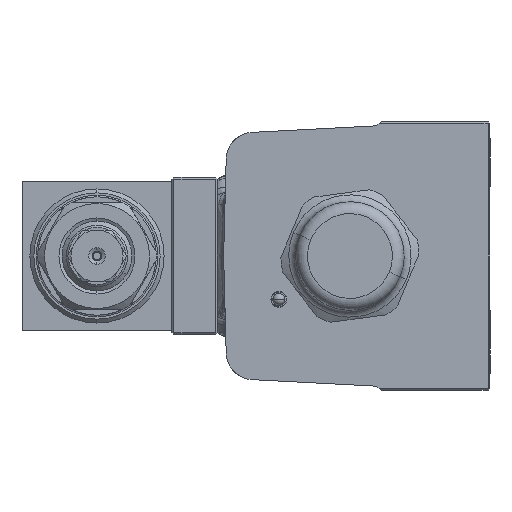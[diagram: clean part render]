
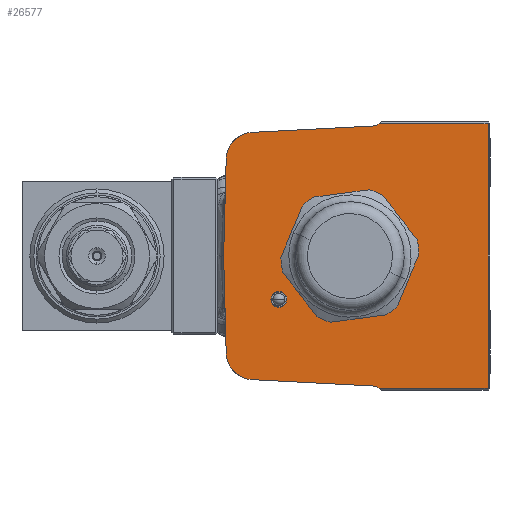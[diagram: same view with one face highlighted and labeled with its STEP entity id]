
A CAD part, left-side view. The second image highlights one B-rep face of the part: STEP entity #26577.
In plain terms, the highlighted planar face has unit normal (-1, 0, 0).
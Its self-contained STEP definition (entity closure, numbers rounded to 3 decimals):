
#138 = CIRCLE ( 'NONE', #11371, 2. ) ;
#163 = CARTESIAN_POINT ( 'NONE',  ( -46.6, 1.706, 32.544 ) ) ;
#1074 = EDGE_CURVE ( 'NONE', #29311, #34501, #23485, .T. ) ;
#2360 = AXIS2_PLACEMENT_3D ( 'NONE', #38598, #11333, #43174 ) ;
#2668 = EDGE_CURVE ( 'NONE', #52649, #45985, #33105, .T. ) ;
#2807 = CARTESIAN_POINT ( 'NONE',  ( -46.6, 31.358, 24.53 ) ) ;
#2915 = EDGE_CURVE ( 'NONE', #29311, #26737, #18118, .T. ) ;
#3044 = CIRCLE ( 'NONE', #25920, 3. ) ;
#3106 = EDGE_CURVE ( 'NONE', #57707, #38130, #3044, .T. ) ;
#3719 = CARTESIAN_POINT ( 'NONE',  ( -46.6, 24.36, 24.347 ) ) ;
#3825 = AXIS2_PLACEMENT_3D ( 'NONE', #39353, #12080, #43908 ) ;
#4926 = AXIS2_PLACEMENT_3D ( 'NONE', #47462, #20184, #52026 ) ;
#5215 = CARTESIAN_POINT ( 'NONE',  ( -46.6, 32., 0. ) ) ;
#5485 = LINE ( 'NONE', #22608, #17622 ) ;
#5718 = AXIS2_PLACEMENT_3D ( 'NONE', #6161, #38040, #10758 ) ;
#6161 = CARTESIAN_POINT ( 'NONE',  ( -46.6, 18., -11. ) ) ;
#6977 = EDGE_CURVE ( 'NONE', #45985, #17584, #10444, .T. ) ;
#8332 = DIRECTION ( 'NONE',  ( 0., 0., 1. ) ) ;
#8645 = ORIENTED_EDGE ( 'NONE', *, *, #31837, .T. ) ;
#9050 = VECTOR ( 'NONE', #45019, 1000. ) ;
#9288 = VERTEX_POINT ( 'NONE', #57681 ) ;
#9448 = AXIS2_PLACEMENT_3D ( 'NONE', #38737, #11487, #43325 ) ;
#9472 = LINE ( 'NONE', #14200, #56465 ) ;
#9480 = FACE_BOUND ( 'NONE', #20515, .T. ) ;
#9816 = DIRECTION ( 'NONE',  ( 0., -1., 0. ) ) ;
#10444 = LINE ( 'NONE', #58997, #9050 ) ;
#10758 = DIRECTION ( 'NONE',  ( 0., 0., 1. ) ) ;
#10902 = CARTESIAN_POINT ( 'NONE',  ( -46.6, 18., -9. ) ) ;
#11333 = DIRECTION ( 'NONE',  ( -1., 0., 0. ) ) ;
#11371 = AXIS2_PLACEMENT_3D ( 'NONE', #45724, #18479, #50301 ) ;
#11487 = DIRECTION ( 'NONE',  ( -1., 0., 0. ) ) ;
#11909 = DIRECTION ( 'NONE',  ( 1., 0., 0. ) ) ;
#12080 = DIRECTION ( 'NONE',  ( -1., 0., 0. ) ) ;
#12977 = ORIENTED_EDGE ( 'NONE', *, *, #2668, .T. ) ;
#13569 = ORIENTED_EDGE ( 'NONE', *, *, #2915, .F. ) ;
#14200 = CARTESIAN_POINT ( 'NONE',  ( -46.6, -35.5, -33.5 ) ) ;
#14300 = EDGE_CURVE ( 'NONE', #17584, #26737, #16394, .T. ) ;
#15621 = CIRCLE ( 'NONE', #2360, 16. ) ;
#16134 = DIRECTION ( 'NONE',  ( 0., 0., 1. ) ) ;
#16307 = EDGE_LOOP ( 'NONE', ( #35828, #8645, #12977, #23942, #52058, #13569, #40821, #51358, #24720, #57301, #56211 ) ) ;
#16394 = CIRCLE ( 'NONE', #4926, 3. ) ;
#16484 = EDGE_CURVE ( 'NONE', #42496, #37502, #15621, .T. ) ;
#17584 = VERTEX_POINT ( 'NONE', #55656 ) ;
#17622 = VECTOR ( 'NONE', #49856, 1000. ) ;
#17728 = VERTEX_POINT ( 'NONE', #48431 ) ;
#18118 = LINE ( 'NONE', #163, #40910 ) ;
#18479 = DIRECTION ( 'NONE',  ( -1., 0., 0. ) ) ;
#19986 = CARTESIAN_POINT ( 'NONE',  ( -46.6, 16., 0. ) ) ;
#20019 = CIRCLE ( 'NONE', #5718, 2. ) ;
#20184 = DIRECTION ( 'NONE',  ( 1., 0., 0. ) ) ;
#20515 = EDGE_LOOP ( 'NONE', ( #40628, #52342 ) ) ;
#21631 = EDGE_CURVE ( 'NONE', #29489, #9288, #138, .T. ) ;
#22496 = CARTESIAN_POINT ( 'NONE',  ( -46.6, 24.36, -24.347 ) ) ;
#22608 = CARTESIAN_POINT ( 'NONE',  ( -46.6, 1.706, -32.544 ) ) ;
#22876 = VERTEX_POINT ( 'NONE', #26048 ) ;
#23485 = CIRCLE ( 'NONE', #44019, 7. ) ;
#23942 = ORIENTED_EDGE ( 'NONE', *, *, #6977, .T. ) ;
#24160 = CARTESIAN_POINT ( 'NONE',  ( -46.6, -7.444, -33.5 ) ) ;
#24509 = ORIENTED_EDGE ( 'NONE', *, *, #21631, .F. ) ;
#24720 = ORIENTED_EDGE ( 'NONE', *, *, #27865, .T. ) ;
#25558 = LINE ( 'NONE', #47861, #49724 ) ;
#25920 = AXIS2_PLACEMENT_3D ( 'NONE', #39180, #11909, #43732 ) ;
#26048 = CARTESIAN_POINT ( 'NONE',  ( -46.6, 31.358, -24.53 ) ) ;
#26209 = CARTESIAN_POINT ( 'NONE',  ( -46.6, -5.85, 32.94 ) ) ;
#26577 = ADVANCED_FACE ( 'NONE', ( #45800, #33696, #9480 ), #43139, .T. ) ;
#26737 = VERTEX_POINT ( 'NONE', #26209 ) ;
#27099 = DIRECTION ( 'NONE',  ( 0., 0., 1. ) ) ;
#27297 = CIRCLE ( 'NONE', #46528, 7. ) ;
#27865 = EDGE_CURVE ( 'NONE', #55379, #22876, #25558, .T. ) ;
#28494 = CARTESIAN_POINT ( 'NONE',  ( -46.6, -35., -33.5 ) ) ;
#29311 = VERTEX_POINT ( 'NONE', #41009 ) ;
#29489 = VERTEX_POINT ( 'NONE', #10902 ) ;
#30009 = CARTESIAN_POINT ( 'NONE',  ( -46.6, 31.978, 0.837 ) ) ;
#30794 = CARTESIAN_POINT ( 'NONE',  ( -46.6, -16., 0. ) ) ;
#31837 = EDGE_CURVE ( 'NONE', #38130, #52649, #9472, .T. ) ;
#32252 = DIRECTION ( 'NONE',  ( 0., -0.999, 0.052 ) ) ;
#33105 = LINE ( 'NONE', #47765, #43790 ) ;
#33696 = FACE_BOUND ( 'NONE', #40256, .T. ) ;
#33983 = LINE ( 'NONE', #30009, #46069 ) ;
#34017 = DIRECTION ( 'NONE',  ( 0., -0.026, 1. ) ) ;
#34501 = VERTEX_POINT ( 'NONE', #2807 ) ;
#35631 = DIRECTION ( 'NONE',  ( -1., 0., 0. ) ) ;
#35828 = ORIENTED_EDGE ( 'NONE', *, *, #3106, .T. ) ;
#36017 = EDGE_CURVE ( 'NONE', #17728, #22876, #27297, .T. ) ;
#37502 = VERTEX_POINT ( 'NONE', #30794 ) ;
#38040 = DIRECTION ( 'NONE',  ( -1., 0., 0. ) ) ;
#38130 = VERTEX_POINT ( 'NONE', #24160 ) ;
#38598 = CARTESIAN_POINT ( 'NONE',  ( -46.6, 0., 0. ) ) ;
#38737 = CARTESIAN_POINT ( 'NONE',  ( -46.6, -35.5, -34. ) ) ;
#39180 = CARTESIAN_POINT ( 'NONE',  ( -46.6, -5.693, -35.936 ) ) ;
#39353 = CARTESIAN_POINT ( 'NONE',  ( -46.6, 0., 0. ) ) ;
#40256 = EDGE_LOOP ( 'NONE', ( #24509, #47529 ) ) ;
#40628 = ORIENTED_EDGE ( 'NONE', *, *, #41219, .F. ) ;
#40821 = ORIENTED_EDGE ( 'NONE', *, *, #1074, .T. ) ;
#40910 = VECTOR ( 'NONE', #32252, 1000. ) ;
#41009 = CARTESIAN_POINT ( 'NONE',  ( -46.6, 24.726, 31.337 ) ) ;
#41219 = EDGE_CURVE ( 'NONE', #37502, #42496, #48323, .T. ) ;
#42035 = EDGE_CURVE ( 'NONE', #55379, #34501, #33983, .T. ) ;
#42496 = VERTEX_POINT ( 'NONE', #19986 ) ;
#43139 = PLANE ( 'NONE',  #9448 ) ;
#43174 = DIRECTION ( 'NONE',  ( 0., -1., 0. ) ) ;
#43325 = DIRECTION ( 'NONE',  ( 0., 0., 1. ) ) ;
#43732 = DIRECTION ( 'NONE',  ( 0., 0., 1. ) ) ;
#43790 = VECTOR ( 'NONE', #16134, 1000. ) ;
#43908 = DIRECTION ( 'NONE',  ( 0., -1., 0. ) ) ;
#44019 = AXIS2_PLACEMENT_3D ( 'NONE', #3719, #35631, #8332 ) ;
#45019 = DIRECTION ( 'NONE',  ( 0., 1., 0. ) ) ;
#45724 = CARTESIAN_POINT ( 'NONE',  ( -46.6, 18., -11. ) ) ;
#45800 = FACE_OUTER_BOUND ( 'NONE', #16307, .T. ) ;
#45985 = VERTEX_POINT ( 'NONE', #58083 ) ;
#46069 = VECTOR ( 'NONE', #34017, 1000. ) ;
#46528 = AXIS2_PLACEMENT_3D ( 'NONE', #22496, #54348, #27099 ) ;
#47462 = CARTESIAN_POINT ( 'NONE',  ( -46.6, -5.693, 35.936 ) ) ;
#47529 = ORIENTED_EDGE ( 'NONE', *, *, #52734, .F. ) ;
#47765 = CARTESIAN_POINT ( 'NONE',  ( -46.6, -35., -34. ) ) ;
#47861 = CARTESIAN_POINT ( 'NONE',  ( -46.6, 31.978, -0.837 ) ) ;
#48323 = CIRCLE ( 'NONE', #3825, 16. ) ;
#48431 = CARTESIAN_POINT ( 'NONE',  ( -46.6, 24.726, -31.337 ) ) ;
#49724 = VECTOR ( 'NONE', #52057, 1000. ) ;
#49856 = DIRECTION ( 'NONE',  ( 0., -0.999, -0.052 ) ) ;
#50301 = DIRECTION ( 'NONE',  ( 0., 0., 1. ) ) ;
#51358 = ORIENTED_EDGE ( 'NONE', *, *, #42035, .F. ) ;
#52026 = DIRECTION ( 'NONE',  ( 0., 0., 1. ) ) ;
#52039 = EDGE_CURVE ( 'NONE', #17728, #57707, #5485, .T. ) ;
#52058 = ORIENTED_EDGE ( 'NONE', *, *, #14300, .T. ) ;
#52057 = DIRECTION ( 'NONE',  ( 0., -0.026, -1. ) ) ;
#52300 = CARTESIAN_POINT ( 'NONE',  ( -46.6, -5.85, -32.94 ) ) ;
#52342 = ORIENTED_EDGE ( 'NONE', *, *, #16484, .F. ) ;
#52649 = VERTEX_POINT ( 'NONE', #28494 ) ;
#52734 = EDGE_CURVE ( 'NONE', #9288, #29489, #20019, .T. ) ;
#54348 = DIRECTION ( 'NONE',  ( 1., 0., 0. ) ) ;
#55379 = VERTEX_POINT ( 'NONE', #5215 ) ;
#55656 = CARTESIAN_POINT ( 'NONE',  ( -46.6, -7.444, 33.5 ) ) ;
#56211 = ORIENTED_EDGE ( 'NONE', *, *, #52039, .T. ) ;
#56465 = VECTOR ( 'NONE', #9816, 1000. ) ;
#57301 = ORIENTED_EDGE ( 'NONE', *, *, #36017, .F. ) ;
#57681 = CARTESIAN_POINT ( 'NONE',  ( -46.6, 18., -13. ) ) ;
#57707 = VERTEX_POINT ( 'NONE', #52300 ) ;
#58083 = CARTESIAN_POINT ( 'NONE',  ( -46.6, -35., 33.5 ) ) ;
#58997 = CARTESIAN_POINT ( 'NONE',  ( -46.6, -35.5, 33.5 ) ) ;
